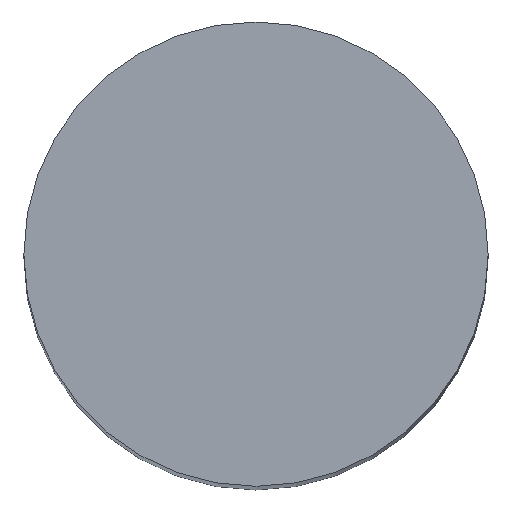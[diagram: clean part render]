
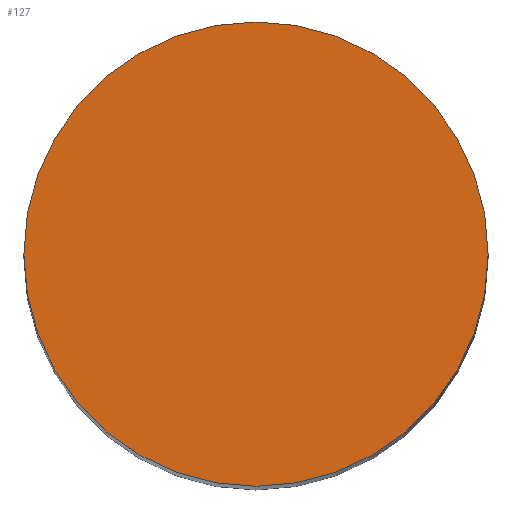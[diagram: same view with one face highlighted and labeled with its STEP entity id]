
A CAD part, top view. The second image highlights one B-rep face of the part: STEP entity #127.
In plain terms, the highlighted planar face has unit normal (0, 0, 1).
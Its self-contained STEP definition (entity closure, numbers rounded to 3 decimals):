
#42 = VERTEX_POINT('',#43);
#43 = CARTESIAN_POINT('',(2750.,0.,25000.));
#50 = CYLINDRICAL_SURFACE('',#51,2750.);
#51 = AXIS2_PLACEMENT_3D('',#52,#53,#54);
#52 = CARTESIAN_POINT('',(0.,0.,0.));
#53 = DIRECTION('',(-0.,-0.,-1.));
#54 = DIRECTION('',(1.,0.,0.));
#69 = EDGE_CURVE('',#42,#42,#70,.T.);
#70 = SURFACE_CURVE('',#71,(#76,#83),.PCURVE_S1.);
#71 = CIRCLE('',#72,2750.);
#72 = AXIS2_PLACEMENT_3D('',#73,#74,#75);
#73 = CARTESIAN_POINT('',(0.,0.,25000.));
#74 = DIRECTION('',(0.,0.,1.));
#75 = DIRECTION('',(1.,0.,0.));
#76 = PCURVE('',#50,#77);
#77 = DEFINITIONAL_REPRESENTATION('',(#78),#82);
#78 = LINE('',#79,#80);
#79 = CARTESIAN_POINT('',(-0.,-25000.));
#80 = VECTOR('',#81,1.);
#81 = DIRECTION('',(-1.,0.));
#82 = ( GEOMETRIC_REPRESENTATION_CONTEXT(2) 
PARAMETRIC_REPRESENTATION_CONTEXT() REPRESENTATION_CONTEXT('2D SPACE',''
  ) );
#83 = PCURVE('',#84,#89);
#84 = PLANE('',#85);
#85 = AXIS2_PLACEMENT_3D('',#86,#87,#88);
#86 = CARTESIAN_POINT('',(0.,0.,25000.
    ));
#87 = DIRECTION('',(0.,0.,1.));
#88 = DIRECTION('',(1.,0.,0.));
#89 = DEFINITIONAL_REPRESENTATION('',(#90),#94);
#90 = CIRCLE('',#91,2750.);
#91 = AXIS2_PLACEMENT_2D('',#92,#93);
#92 = CARTESIAN_POINT('',(0.,0.));
#93 = DIRECTION('',(1.,0.));
#94 = ( GEOMETRIC_REPRESENTATION_CONTEXT(2) 
PARAMETRIC_REPRESENTATION_CONTEXT() REPRESENTATION_CONTEXT('2D SPACE',''
  ) );
#127 = ADVANCED_FACE('',(#128),#84,.T.);
#128 = FACE_BOUND('',#129,.T.);
#129 = EDGE_LOOP('',(#130));
#130 = ORIENTED_EDGE('',*,*,#69,.T.);
